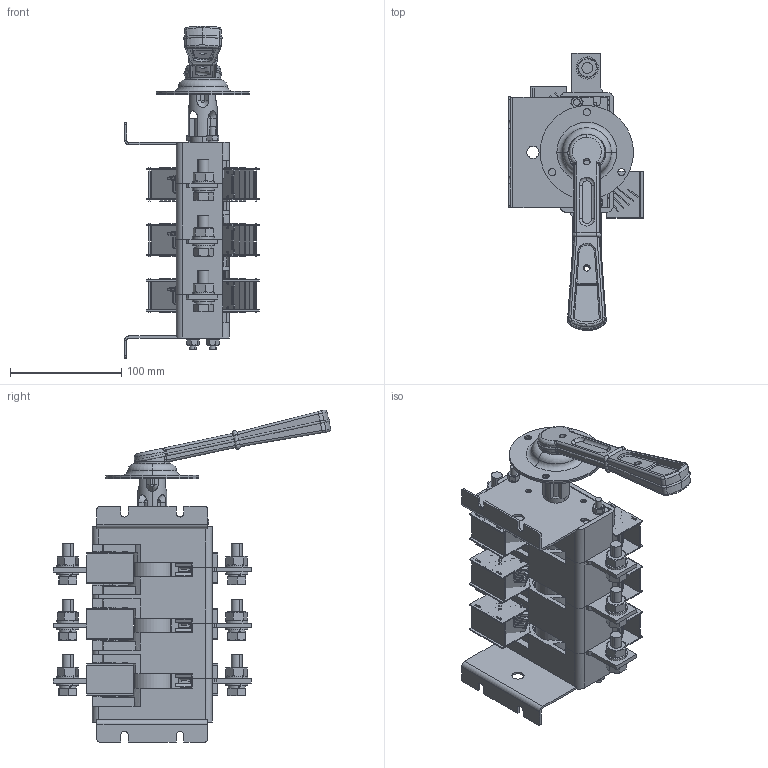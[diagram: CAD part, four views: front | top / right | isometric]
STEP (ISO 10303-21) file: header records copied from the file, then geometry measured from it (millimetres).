
FILE_DESCRIPTION (( 'STEP AP203' ), '1' );
FILE_NAME ('ﾂﾐ32-37ﾀ(ﾂ)31250-32ﾓﾕﾋ3.STEP', '2018-02-09T12:20:18', ( '' ), ( '' ), 'SwSTEP 2.0', 'SolidWorks 2018', '' );
FILE_SCHEMA (( 'CONFIG_CONTROL_DESIGN' ));
Length unit declared in the file: millimetre
Products named in the file (1): ﾂﾐ32-37ﾀ(ﾂ)31250-32ﾓﾕﾋ3
Bounding box: 121.5 x 249.58 x 298.85 mm (x, y, z)
Surface area: 347966.7 mm2 (no closed solid volume)
Topology: 0 solids, 134 shells, 1358 faces, 7085 edges, 5617 vertices
Faces by surface type: plane 873, cylinder 368, cone 42, bspline 42, torus 22, sphere 11
Entity records: 73143 total; most frequent: CARTESIAN_POINT 18639, DIRECTION 10657, ORIENTED_EDGE 9772, EDGE_CURVE 7078, VERTEX_POINT 5615, LINE 5327, VECTOR 5327, AXIS2_PLACEMENT_3D 2665
